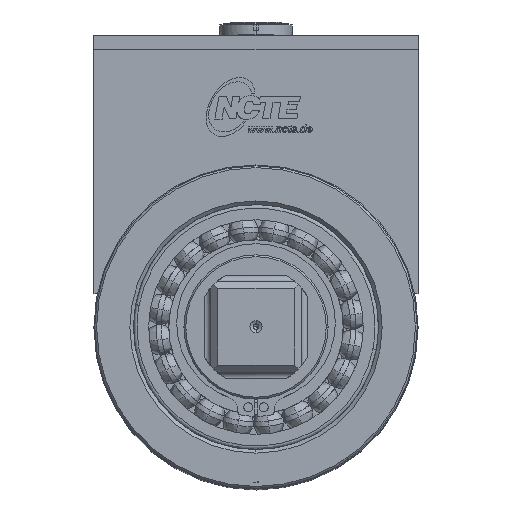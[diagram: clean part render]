
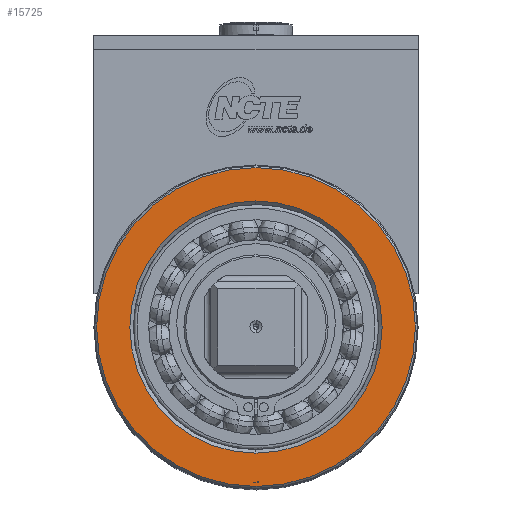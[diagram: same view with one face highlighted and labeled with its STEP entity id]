
A CAD part, top view. The second image highlights one B-rep face of the part: STEP entity #15725.
In plain terms, the highlighted planar face has unit normal (0, 0, -1).
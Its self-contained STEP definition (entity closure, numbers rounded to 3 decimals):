
#1543 = VERTEX_POINT ( 'NONE', #34499 ) ;
#2498 = PLANE ( 'NONE',  #12994 ) ;
#8613 = EDGE_CURVE ( 'NONE', #22043, #46606, #24563, .T. ) ;
#9050 = AXIS2_PLACEMENT_3D ( 'NONE', #25147, #36610, #44023 ) ;
#9220 = CARTESIAN_POINT ( 'NONE',  ( 0., 0., 20. ) ) ;
#9947 = DIRECTION ( 'NONE',  ( 0., 0., 1. ) ) ;
#10045 = CIRCLE ( 'NONE', #36283, 35. ) ;
#10439 = CARTESIAN_POINT ( 'NONE',  ( 0., 0., 20. ) ) ;
#12753 = EDGE_LOOP ( 'NONE', ( #39710, #46997 ) ) ;
#12994 = AXIS2_PLACEMENT_3D ( 'NONE', #10439, #9947, #32453 ) ;
#13427 = EDGE_CURVE ( 'NONE', #20553, #1543, #32337, .T. ) ;
#15725 = ADVANCED_FACE ( 'NONE', ( #19480, #35089 ), #2498, .F. ) ;
#18509 = AXIS2_PLACEMENT_3D ( 'NONE', #9220, #38362, #30927 ) ;
#18802 = EDGE_CURVE ( 'NONE', #46606, #22043, #10045, .T. ) ;
#18885 = AXIS2_PLACEMENT_3D ( 'NONE', #33574, #26466, #30176 ) ;
#19480 = FACE_BOUND ( 'NONE', #12753, .T. ) ;
#20553 = VERTEX_POINT ( 'NONE', #23134 ) ;
#22043 = VERTEX_POINT ( 'NONE', #30477 ) ;
#23134 = CARTESIAN_POINT ( 'NONE',  ( -44.25, 0., 20. ) ) ;
#24563 = CIRCLE ( 'NONE', #18885, 35. ) ;
#25147 = CARTESIAN_POINT ( 'NONE',  ( 0., 0., 20. ) ) ;
#26466 = DIRECTION ( 'NONE',  ( 0., 0., -1. ) ) ;
#29928 = DIRECTION ( 'NONE',  ( 0., 0., -1. ) ) ;
#30149 = ORIENTED_EDGE ( 'NONE', *, *, #37440, .F. ) ;
#30176 = DIRECTION ( 'NONE',  ( 0., -1., 0. ) ) ;
#30477 = CARTESIAN_POINT ( 'NONE',  ( 0., 35., 20. ) ) ;
#30927 = DIRECTION ( 'NONE',  ( -1., 0., 0. ) ) ;
#32337 = CIRCLE ( 'NONE', #9050, 44.25 ) ;
#32453 = DIRECTION ( 'NONE',  ( 1., 0., 0. ) ) ;
#33156 = DIRECTION ( 'NONE',  ( 0., -1., 0. ) ) ;
#33316 = CARTESIAN_POINT ( 'NONE',  ( 0., 0., 20. ) ) ;
#33574 = CARTESIAN_POINT ( 'NONE',  ( 0., 0., 20. ) ) ;
#34499 = CARTESIAN_POINT ( 'NONE',  ( 44.25, 0., 20. ) ) ;
#35089 = FACE_OUTER_BOUND ( 'NONE', #42396, .T. ) ;
#36283 = AXIS2_PLACEMENT_3D ( 'NONE', #33316, #29928, #33156 ) ;
#36610 = DIRECTION ( 'NONE',  ( 0., 0., 1. ) ) ;
#37140 = ORIENTED_EDGE ( 'NONE', *, *, #13427, .F. ) ;
#37440 = EDGE_CURVE ( 'NONE', #1543, #20553, #40101, .T. ) ;
#38362 = DIRECTION ( 'NONE',  ( 0., 0., 1. ) ) ;
#39710 = ORIENTED_EDGE ( 'NONE', *, *, #18802, .F. ) ;
#40101 = CIRCLE ( 'NONE', #18509, 44.25 ) ;
#42396 = EDGE_LOOP ( 'NONE', ( #37140, #30149 ) ) ;
#42744 = CARTESIAN_POINT ( 'NONE',  ( 0., -35., 20. ) ) ;
#44023 = DIRECTION ( 'NONE',  ( -1., 0., 0. ) ) ;
#46606 = VERTEX_POINT ( 'NONE', #42744 ) ;
#46997 = ORIENTED_EDGE ( 'NONE', *, *, #8613, .F. ) ;
